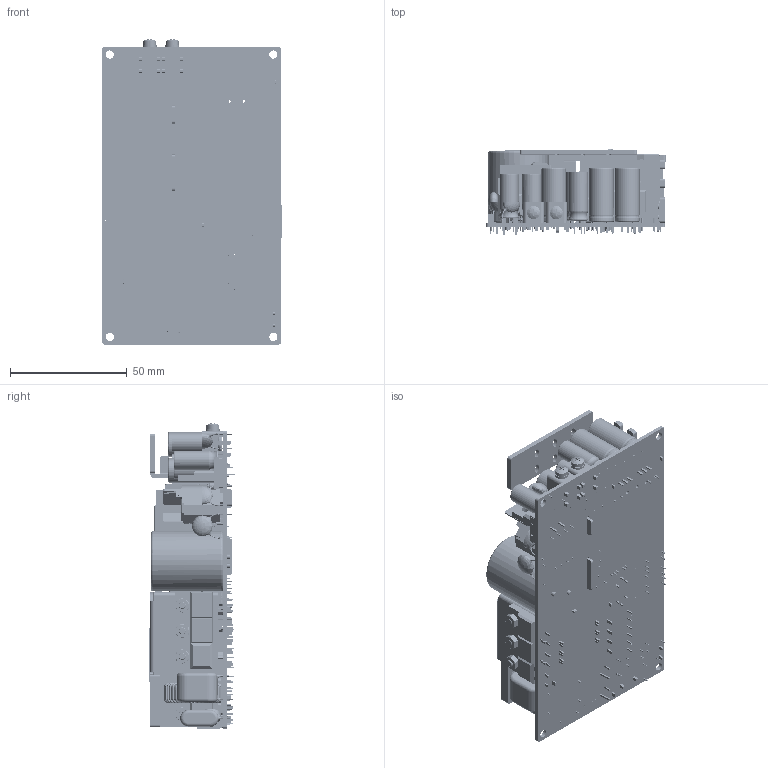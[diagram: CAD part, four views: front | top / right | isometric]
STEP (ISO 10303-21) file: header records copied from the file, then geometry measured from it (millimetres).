
FILE_DESCRIPTION((''),'2;1');
FILE_NAME('MDS-250APB_ASM_ASM','2017-04-21T',('JASON.CHIEN'),(''),'PRO/ENGINEER BY PARAMETRIC TECHNOLOGY CORPORATION, 2010280','PRO/ENGINEER BY PARAMETRIC TECHNOLOGY CORPORATION, 2010280','');
FILE_SCHEMA(('CONFIG_CONTROL_DESIGN'));
Products named in the file (250): MSBR-81_1; MSBR-80_1; MSBR-79_1; MSBR-78_1; MSBR-77_1; MSBR-76_1; MSBR-75_1; MSBR-74_1; MSBR-73_1; MSBR-72_1; MSBR-71_1; MSBR-70_1; MSBR-69_1; MSBR-68_1; MSBR-67_1; MSBR-66_1; MSBR-65_1; MSBR-64_1; MSBR-63_1; MSBR-62_1; MSBR-61_1; MSBR-60_1; MSBR-59_1; MSBR-58_1; MSBR-57_1; MSBR-56_1; MSBR-55_1; MSBR-54_1; MSBR-53_1; MSBR-52_1; MSBR-51_1; MSBR-50_1; MSBR-49_1; MSBR-48_1; MSBR-47_1; MSBR-46_1; MSBR-45_1; MSBR-44_1; MSBR-43_1; MSBR-42_1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
Assembly tree (272 placements, depth 5):
  MDS-250APB_ASM_ASM
    MDS-250APB12_ASM_1_ASM_ASM
      MDS-250APB12_ASM_ASM_ASM_ASM_1__ASM
        MSBR-81_1
        MSBR-80_1
        MSBR-79_1
        MSBR-78_1
        MSBR-77_1
        MSBR-76_1
        MSBR-75_1
        MSBR-74_1
        MSBR-73_1
        MSBR-72_1
        MSBR-71_1
        MSBR-70_1
        MSBR-69_1
        MSBR-68_1
        MSBR-67_1
        MSBR-66_1
        MSBR-65_1
        MSBR-64_1
        MSBR-63_1
        MSBR-62_1
        MSBR-61_1
        MSBR-60_1
        MSBR-59_1
        MSBR-58_1
        MSBR-57_1
        MSBR-56_1
        MSBR-55_1
        MSBR-54_1
        MSBR-53_1
        MSBR-52_1
        MSBR-51_1
        MSBR-50_1
        MSBR-49_1
        MSBR-48_1
        MSBR-47_1
        MSBR-46_1
        MSBR-45_1
        MSBR-44_1
        MSBR-43_1
        MSBR-42_1
        MSBR-41_1
        MSBR-40_1
        MSBR-39_1
        MSBR-38_1
        MSBR-37_1
        MSBR-36_1
        MSBR-35_1
        MSBR-34_1
        MSBR-33_1
        MSBR-32_1
        MSBR-31_1
        MSBR-30_1
        MSBR-29_1
        MSBR-28_1
        MSBR-27_1
        MSBR-26_1
        MSBR-25_1
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Bounding box: 76.85 x 36.96 x 130.69 mm (x, y, z)
Volume: 222384 mm3; surface area: 209354.1 mm2
Topology: 283 solids, 291 shells, 9961 faces, 25200 edges, 15637 vertices
Faces by surface type: plane 4197, cylinder 3444, torus 1449, bspline 398, cone 263, sphere 164, extrusion 28, revolution 18
Entity records: 302318 total; most frequent: CARTESIAN_POINT 80988, DIRECTION 47731, ORIENTED_EDGE 44311, EDGE_CURVE 22162, AXIS2_PLACEMENT_3D 17614, VERTEX_POINT 14032, VECTOR 12485, LINE 12471
